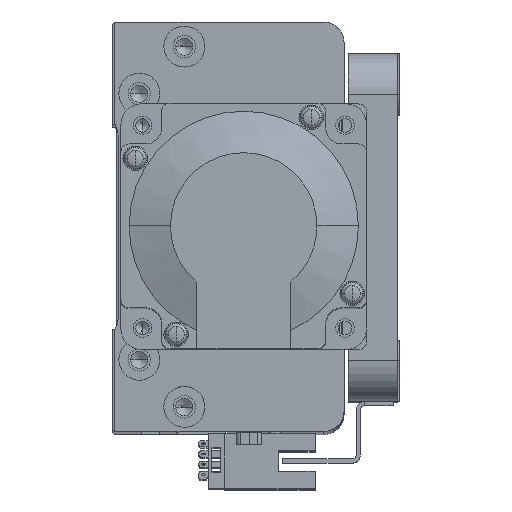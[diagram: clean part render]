
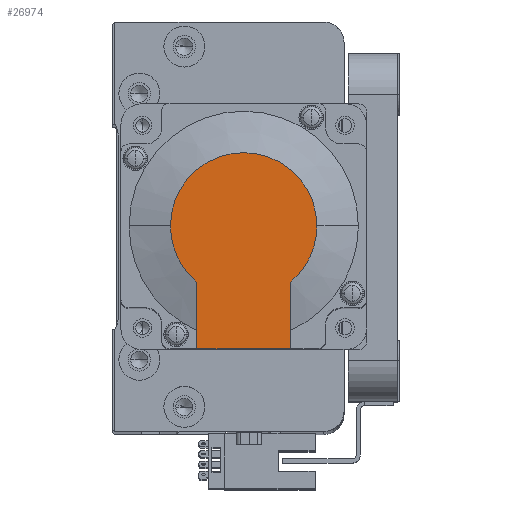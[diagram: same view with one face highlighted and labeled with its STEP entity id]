
A CAD part, top view. The second image highlights one B-rep face of the part: STEP entity #26974.
In plain terms, the highlighted planar face has unit normal (0, 0, 1) as drawn and (-1, 0, 0) by its records, which use the part's own axes.
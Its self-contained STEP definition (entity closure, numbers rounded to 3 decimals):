
#420 = CARTESIAN_POINT ( 'NONE',  ( -118.5, 0., -17.881 ) ) ;
#1746 = EDGE_CURVE ( 'NONE', #29950, #28229, #29783, .T. ) ;
#3152 = CARTESIAN_POINT ( 'NONE',  ( -118.5, 0., 0. ) ) ;
#4214 = EDGE_LOOP ( 'NONE', ( #11396, #16635, #5999, #40836, #33169, #40179 ) ) ;
#5360 = VECTOR ( 'NONE', #18377, 1000. ) ;
#5490 = DIRECTION ( 'NONE',  ( -1., 0., 0. ) ) ;
#5999 = ORIENTED_EDGE ( 'NONE', *, *, #49667, .T. ) ;
#6306 = VERTEX_POINT ( 'NONE', #48989 ) ;
#7094 = DIRECTION ( 'NONE',  ( 0., 0., -1. ) ) ;
#9270 = LINE ( 'NONE', #24411, #39433 ) ;
#10264 = FACE_OUTER_BOUND ( 'NONE', #4214, .T. ) ;
#10972 = EDGE_CURVE ( 'NONE', #6306, #15788, #26320, .T. ) ;
#11396 = ORIENTED_EDGE ( 'NONE', *, *, #44856, .T. ) ;
#13044 = PLANE ( 'NONE',  #14885 ) ;
#14544 = DIRECTION ( 'NONE',  ( -1., 0., 0. ) ) ;
#14645 = DIRECTION ( 'NONE',  ( -1., 0., 0. ) ) ;
#14885 = AXIS2_PLACEMENT_3D ( 'NONE', #29096, #5490, #33044 ) ;
#15629 = EDGE_CURVE ( 'NONE', #21269, #30887, #33850, .T. ) ;
#15788 = VERTEX_POINT ( 'NONE', #23984 ) ;
#16321 = VECTOR ( 'NONE', #41839, 1000. ) ;
#16389 = CARTESIAN_POINT ( 'NONE',  ( -118.5, 0., 17.881 ) ) ;
#16635 = ORIENTED_EDGE ( 'NONE', *, *, #15629, .T. ) ;
#18377 = DIRECTION ( 'NONE',  ( 0., 0., 1. ) ) ;
#21269 = VERTEX_POINT ( 'NONE', #44602 ) ;
#23807 = AXIS2_PLACEMENT_3D ( 'NONE', #38126, #14544, #42104 ) ;
#23984 = CARTESIAN_POINT ( 'NONE',  ( -118.5, 30., 11.45 ) ) ;
#24411 = CARTESIAN_POINT ( 'NONE',  ( -118.5, 0., 11.45 ) ) ;
#26320 = LINE ( 'NONE', #41926, #5360 ) ;
#26974 = ADVANCED_FACE ( 'NONE', ( #10264 ), #13044, .T. ) ;
#28229 = VERTEX_POINT ( 'NONE', #37041 ) ;
#29096 = CARTESIAN_POINT ( 'NONE',  ( -118.5, -8.941, 0. ) ) ;
#29783 = CIRCLE ( 'NONE', #34548, 17.881 ) ;
#29950 = VERTEX_POINT ( 'NONE', #16389 ) ;
#30709 = DIRECTION ( 'NONE',  ( -1., 0., 0. ) ) ;
#30887 = VERTEX_POINT ( 'NONE', #420 ) ;
#30933 = EDGE_CURVE ( 'NONE', #15788, #28229, #9270, .T. ) ;
#33044 = DIRECTION ( 'NONE',  ( 0., 0., 1. ) ) ;
#33169 = ORIENTED_EDGE ( 'NONE', *, *, #30933, .F. ) ;
#33850 = CIRCLE ( 'NONE', #38660, 17.881 ) ;
#34548 = AXIS2_PLACEMENT_3D ( 'NONE', #38209, #14645, #45873 ) ;
#37041 = CARTESIAN_POINT ( 'NONE',  ( -118.5, 13.735, 11.45 ) ) ;
#37257 = LINE ( 'NONE', #45830, #16321 ) ;
#38126 = CARTESIAN_POINT ( 'NONE',  ( -118.5, 0., 0. ) ) ;
#38209 = CARTESIAN_POINT ( 'NONE',  ( -118.5, 0., 0. ) ) ;
#38660 = AXIS2_PLACEMENT_3D ( 'NONE', #3152, #30709, #7094 ) ;
#39433 = VECTOR ( 'NONE', #44246, 1000. ) ;
#40179 = ORIENTED_EDGE ( 'NONE', *, *, #10972, .F. ) ;
#40836 = ORIENTED_EDGE ( 'NONE', *, *, #1746, .T. ) ;
#41839 = DIRECTION ( 'NONE',  ( 0., -1., 0. ) ) ;
#41926 = CARTESIAN_POINT ( 'NONE',  ( -118.5, 30., 25. ) ) ;
#42104 = DIRECTION ( 'NONE',  ( 0., 0., -1. ) ) ;
#44246 = DIRECTION ( 'NONE',  ( 0., -1., 0. ) ) ;
#44602 = CARTESIAN_POINT ( 'NONE',  ( -118.5, 13.735, -11.45 ) ) ;
#44856 = EDGE_CURVE ( 'NONE', #6306, #21269, #37257, .T. ) ;
#45830 = CARTESIAN_POINT ( 'NONE',  ( -118.5, -8.941, -11.45 ) ) ;
#45873 = DIRECTION ( 'NONE',  ( 0., 0., -1. ) ) ;
#48989 = CARTESIAN_POINT ( 'NONE',  ( -118.5, 30., -11.45 ) ) ;
#49615 = CIRCLE ( 'NONE', #23807, 17.881 ) ;
#49667 = EDGE_CURVE ( 'NONE', #30887, #29950, #49615, .T. ) ;
